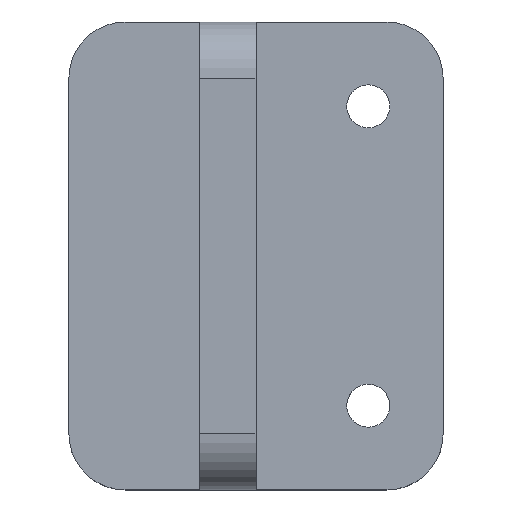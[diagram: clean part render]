
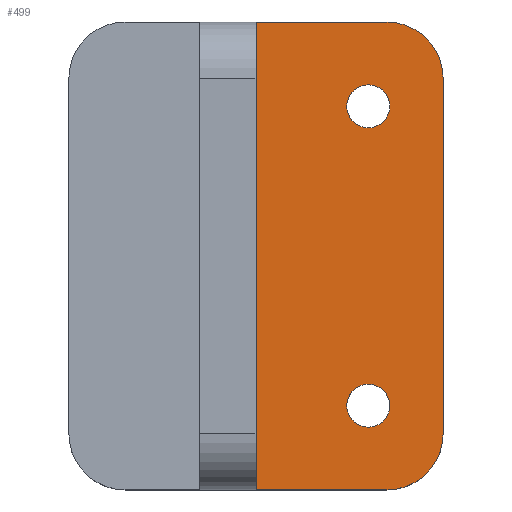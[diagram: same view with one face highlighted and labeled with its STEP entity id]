
A CAD part, top view. The second image highlights one B-rep face of the part: STEP entity #499.
In plain terms, the highlighted planar face has unit normal (0, 0, 1).
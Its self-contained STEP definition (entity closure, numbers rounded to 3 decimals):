
#101=CARTESIAN_POINT('',(-73.4,-9.8,3.));
#102=DIRECTION('',(0.,0.,1.));
#103=DIRECTION('',(1.,0.,0.));
#104=AXIS2_PLACEMENT_3D('',#101,#102,#103);
#106=DIRECTION('',(0.,1.,0.));
#107=VECTOR('',#106,19.);
#108=CARTESIAN_POINT('',(-70.4,-28.8,3.));
#109=LINE('',#108,#107);
#110=CARTESIAN_POINT('',(-73.4,-28.8,3.));
#111=DIRECTION('',(0.,0.,1.));
#112=DIRECTION('',(0.,-1.,0.));
#113=AXIS2_PLACEMENT_3D('',#110,#111,#112);
#115=DIRECTION('',(1.,0.,0.));
#116=VECTOR('',#115,7.);
#117=CARTESIAN_POINT('',(-80.4,-31.8,3.));
#118=LINE('',#117,#116);
#119=DIRECTION('',(-1.,0.,0.));
#120=VECTOR('',#119,7.);
#121=CARTESIAN_POINT('',(-73.4,-6.8,3.));
#122=LINE('',#121,#120);
#123=CARTESIAN_POINT('',(-74.4,-11.3,3.));
#124=DIRECTION('',(0.,0.,1.));
#125=DIRECTION('',(0.,-1.,0.));
#126=AXIS2_PLACEMENT_3D('',#123,#124,#125);
#128=CARTESIAN_POINT('',(-74.4,-11.3,3.));
#129=DIRECTION('',(0.,0.,1.));
#130=DIRECTION('',(0.,1.,0.));
#131=AXIS2_PLACEMENT_3D('',#128,#129,#130);
#133=CARTESIAN_POINT('',(-74.4,-27.3,3.));
#134=DIRECTION('',(0.,0.,1.));
#135=DIRECTION('',(0.,-1.,0.));
#136=AXIS2_PLACEMENT_3D('',#133,#134,#135);
#138=CARTESIAN_POINT('',(-74.4,-27.3,3.));
#139=DIRECTION('',(0.,0.,1.));
#140=DIRECTION('',(0.,1.,0.));
#141=AXIS2_PLACEMENT_3D('',#138,#139,#140);
#143=DIRECTION('',(0.,1.,0.));
#144=VECTOR('',#143,25.);
#145=CARTESIAN_POINT('',(-80.4,-31.8,3.));
#146=LINE('',#145,#144);
#273=CARTESIAN_POINT('',(-80.4,-31.8,3.));
#274=CARTESIAN_POINT('',(-80.4,-6.8,3.));
#275=VERTEX_POINT('',#273);
#276=VERTEX_POINT('',#274);
#281=CARTESIAN_POINT('',(-70.4,-9.8,3.));
#282=VERTEX_POINT('',#281);
#283=CARTESIAN_POINT('',(-73.4,-6.8,3.));
#284=VERTEX_POINT('',#283);
#289=CARTESIAN_POINT('',(-73.4,-31.8,3.));
#290=VERTEX_POINT('',#289);
#291=CARTESIAN_POINT('',(-70.4,-28.8,3.));
#292=VERTEX_POINT('',#291);
#301=CARTESIAN_POINT('',(-74.4,-12.45,3.));
#302=CARTESIAN_POINT('',(-74.4,-10.15,3.));
#303=VERTEX_POINT('',#301);
#304=VERTEX_POINT('',#302);
#305=CARTESIAN_POINT('',(-74.4,-28.45,3.));
#306=CARTESIAN_POINT('',(-74.4,-26.15,3.));
#307=VERTEX_POINT('',#305);
#308=VERTEX_POINT('',#306);
#473=CARTESIAN_POINT('',(0.,0.,3.));
#474=DIRECTION('',(0.,0.,1.));
#475=DIRECTION('',(0.,-1.,0.));
#476=AXIS2_PLACEMENT_3D('',#473,#474,#475);
#477=PLANE('',#476);
#478=ORIENTED_EDGE('',*,*,#353,.F.);
#479=ORIENTED_EDGE('',*,*,#369,.F.);
#480=ORIENTED_EDGE('',*,*,#382,.F.);
#481=ORIENTED_EDGE('',*,*,#405,.F.);
#483=ORIENTED_EDGE('',*,*,#482,.T.);
#484=ORIENTED_EDGE('',*,*,#458,.F.);
#485=EDGE_LOOP('',(#478,#479,#480,#481,#483,#484));
#486=FACE_OUTER_BOUND('',#485,.F.);
#488=ORIENTED_EDGE('',*,*,#487,.T.);
#490=ORIENTED_EDGE('',*,*,#489,.T.);
#491=EDGE_LOOP('',(#488,#490));
#492=FACE_BOUND('',#491,.F.);
#494=ORIENTED_EDGE('',*,*,#493,.T.);
#496=ORIENTED_EDGE('',*,*,#495,.T.);
#497=EDGE_LOOP('',(#494,#496));
#498=FACE_BOUND('',#497,.F.);
#499=ADVANCED_FACE('',(#486,#492,#498),#477,.T.);
#105=CIRCLE('',#104,3.);
#114=CIRCLE('',#113,3.);
#127=CIRCLE('',#126,1.15);
#132=CIRCLE('',#131,1.15);
#137=CIRCLE('',#136,1.15);
#142=CIRCLE('',#141,1.15);
#353=EDGE_CURVE('',#282,#284,#105,.T.);
#369=EDGE_CURVE('',#292,#282,#109,.T.);
#382=EDGE_CURVE('',#290,#292,#114,.T.);
#405=EDGE_CURVE('',#275,#290,#118,.T.);
#458=EDGE_CURVE('',#284,#276,#122,.T.);
#482=EDGE_CURVE('',#275,#276,#146,.T.);
#487=EDGE_CURVE('',#303,#304,#127,.T.);
#489=EDGE_CURVE('',#304,#303,#132,.T.);
#493=EDGE_CURVE('',#307,#308,#137,.T.);
#495=EDGE_CURVE('',#308,#307,#142,.T.);
